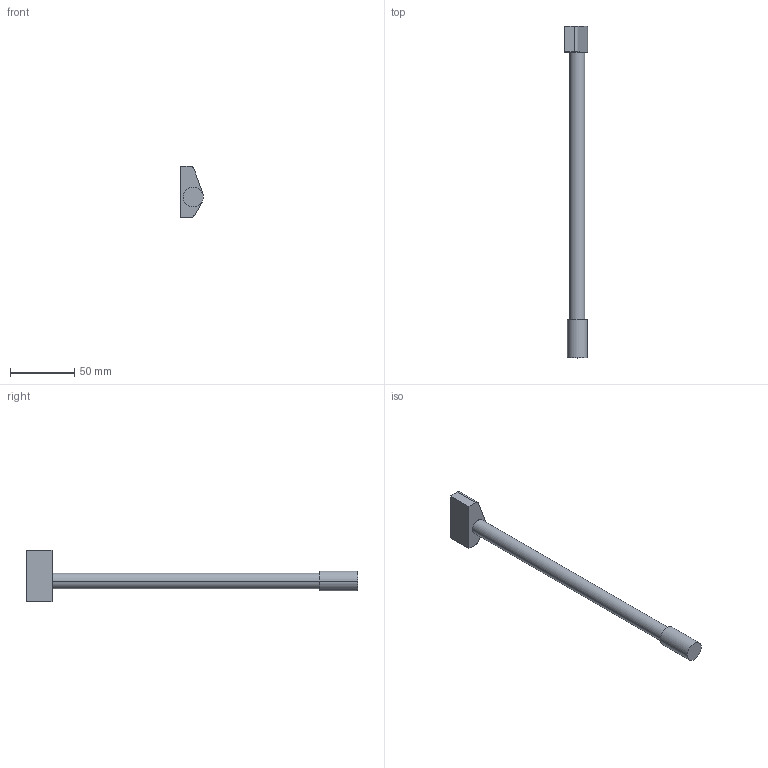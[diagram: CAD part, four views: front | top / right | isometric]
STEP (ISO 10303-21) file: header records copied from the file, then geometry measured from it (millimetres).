
FILE_DESCRIPTION (( 'STEP AP214' ), '1' );
FILE_NAME ('DWD-XP-Reling Innenschub_NL-275_rechts.step', '2010-09-27T06:30:27', ( 'grass' ), ( '' ), 'SwSTEP 2.0', 'SolidWorks 2010', '' );
FILE_SCHEMA (( 'AUTOMOTIVE_DESIGN' ));
Length unit declared in the file: millimetre
Products named in the file (1): DWD-XP-Reling Innenschub_NL-275_rechts
Bounding box: 18 x 259.3 x 40.1 mm (x, y, z)
Volume: 40876.9 mm3; surface area: 12709.7 mm2
Topology: 1 solids, 1 shells, 17 faces, 39 edges, 26 vertices
Faces by surface type: plane 9, cylinder 8
Entity records: 523 total; most frequent: DIRECTION 91, CARTESIAN_POINT 83, ORIENTED_EDGE 78, EDGE_CURVE 39, AXIS2_PLACEMENT_3D 34, VERTEX_POINT 26, VECTOR 23, LINE 23
